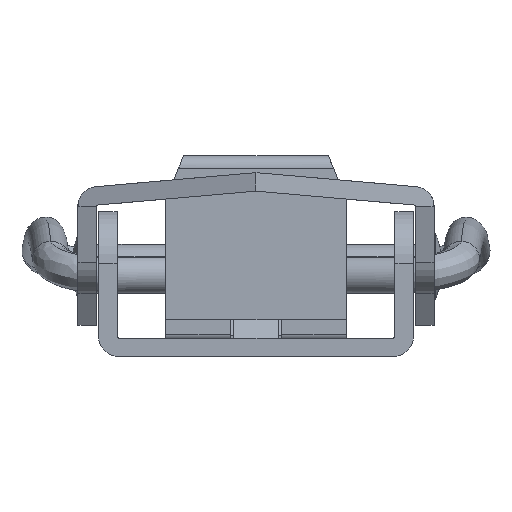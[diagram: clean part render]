
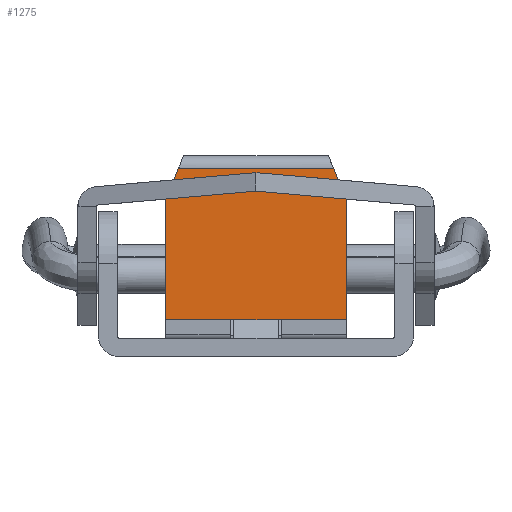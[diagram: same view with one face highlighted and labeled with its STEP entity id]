
A CAD part, front view. The second image highlights one B-rep face of the part: STEP entity #1275.
In plain terms, the highlighted planar face has unit normal (0, -1, 0) as drawn and (-1, 0, 0) by its records, which use the part's own axes.
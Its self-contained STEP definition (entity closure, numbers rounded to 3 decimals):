
#251 = ORIENTED_EDGE ( 'NONE', *, *, #6789, .T. ) ;
#392 = VECTOR ( 'NONE', #2960, 1000. ) ;
#424 = DIRECTION ( 'NONE',  ( 0., 1., 0. ) ) ;
#610 = VERTEX_POINT ( 'NONE', #821 ) ;
#821 = CARTESIAN_POINT ( 'NONE',  ( -3.1, 11.6, 0.848 ) ) ;
#886 = AXIS2_PLACEMENT_3D ( 'NONE', #1725, #3629, #424 ) ;
#1200 = VERTEX_POINT ( 'NONE', #2677 ) ;
#1224 = FACE_OUTER_BOUND ( 'NONE', #4695, .T. ) ;
#1275 = ADVANCED_FACE ( 'NONE', ( #1224 ), #4666, .F. ) ;
#1283 = CARTESIAN_POINT ( 'NONE',  ( -3.1, 1.4, 0. ) ) ;
#1725 = CARTESIAN_POINT ( 'NONE',  ( -3.1, 1.4, 12.2 ) ) ;
#1741 = LINE ( 'NONE', #4142, #2656 ) ;
#1865 = DIRECTION ( 'NONE',  ( 0., 1., 0. ) ) ;
#2290 = EDGE_CURVE ( 'NONE', #610, #5401, #2762, .T. ) ;
#2515 = CARTESIAN_POINT ( 'NONE',  ( -3.1, 9.5, 12.2 ) ) ;
#2656 = VECTOR ( 'NONE', #4712, 1000. ) ;
#2677 = CARTESIAN_POINT ( 'NONE',  ( -3.1, 1.4, 12.2 ) ) ;
#2762 = LINE ( 'NONE', #5727, #4376 ) ;
#2812 = EDGE_CURVE ( 'NONE', #1200, #5443, #6350, .T. ) ;
#2930 = EDGE_CURVE ( 'NONE', #3730, #1200, #6640, .T. ) ;
#2939 = CARTESIAN_POINT ( 'NONE',  ( -3.1, 1.4, 12.2 ) ) ;
#2960 = DIRECTION ( 'NONE',  ( 0., -1., 0. ) ) ;
#2992 = LINE ( 'NONE', #3687, #3839 ) ;
#3292 = CARTESIAN_POINT ( 'NONE',  ( -3.1, 9.5, 0. ) ) ;
#3530 = ORIENTED_EDGE ( 'NONE', *, *, #2290, .F. ) ;
#3629 = DIRECTION ( 'NONE',  ( 1., 0., 0. ) ) ;
#3674 = VECTOR ( 'NONE', #1865, 1000. ) ;
#3687 = CARTESIAN_POINT ( 'NONE',  ( -3.1, 14.131, 1.871 ) ) ;
#3730 = VERTEX_POINT ( 'NONE', #2515 ) ;
#3839 = VECTOR ( 'NONE', #5390, 1000. ) ;
#4142 = CARTESIAN_POINT ( 'NONE',  ( -3.1, 14.131, 10.329 ) ) ;
#4197 = ORIENTED_EDGE ( 'NONE', *, *, #7106, .T. ) ;
#4271 = EDGE_CURVE ( 'NONE', #5443, #5417, #6724, .T. ) ;
#4376 = VECTOR ( 'NONE', #6042, 1000. ) ;
#4481 = CARTESIAN_POINT ( 'NONE',  ( -3.1, 1.4, 0. ) ) ;
#4666 = PLANE ( 'NONE',  #886 ) ;
#4695 = EDGE_LOOP ( 'NONE', ( #4197, #3530, #251, #5879, #6297, #5937 ) ) ;
#4712 = DIRECTION ( 'NONE',  ( 0., 0.927, -0.375 ) ) ;
#5010 = CARTESIAN_POINT ( 'NONE',  ( -3.1, 11.6, 11.352 ) ) ;
#5390 = DIRECTION ( 'NONE',  ( 0., -0.927, -0.375 ) ) ;
#5401 = VERTEX_POINT ( 'NONE', #5010 ) ;
#5417 = VERTEX_POINT ( 'NONE', #3292 ) ;
#5443 = VERTEX_POINT ( 'NONE', #4481 ) ;
#5727 = CARTESIAN_POINT ( 'NONE',  ( -3.1, 11.6, 12.2 ) ) ;
#5879 = ORIENTED_EDGE ( 'NONE', *, *, #4271, .F. ) ;
#5937 = ORIENTED_EDGE ( 'NONE', *, *, #2930, .F. ) ;
#6042 = DIRECTION ( 'NONE',  ( 0., 0., 1. ) ) ;
#6096 = VECTOR ( 'NONE', #6681, 1000. ) ;
#6297 = ORIENTED_EDGE ( 'NONE', *, *, #2812, .F. ) ;
#6350 = LINE ( 'NONE', #6760, #6096 ) ;
#6640 = LINE ( 'NONE', #2939, #392 ) ;
#6681 = DIRECTION ( 'NONE',  ( 0., 0., -1. ) ) ;
#6724 = LINE ( 'NONE', #1283, #3674 ) ;
#6760 = CARTESIAN_POINT ( 'NONE',  ( -3.1, 1.4, 12.2 ) ) ;
#6789 = EDGE_CURVE ( 'NONE', #610, #5417, #2992, .T. ) ;
#7106 = EDGE_CURVE ( 'NONE', #3730, #5401, #1741, .T. ) ;
